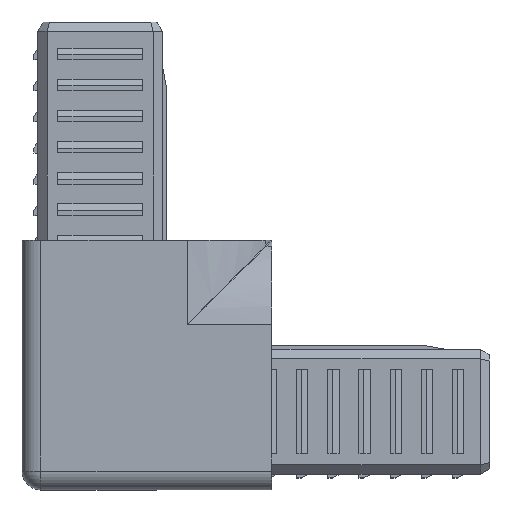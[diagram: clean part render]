
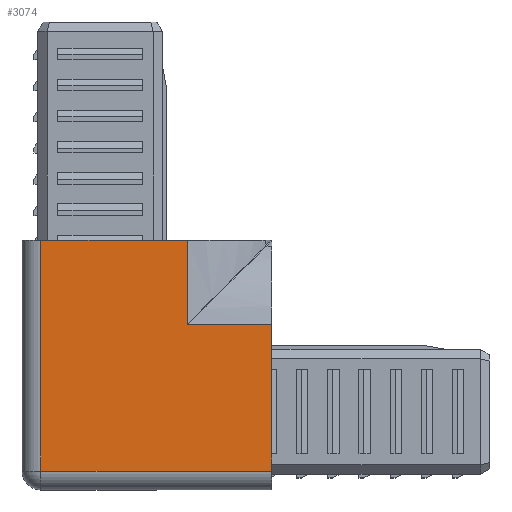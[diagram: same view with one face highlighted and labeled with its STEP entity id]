
A CAD part, top view. The second image highlights one B-rep face of the part: STEP entity #3074.
In plain terms, the highlighted planar face has unit normal (0, 0, 1).
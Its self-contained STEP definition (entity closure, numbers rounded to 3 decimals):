
#286 = VERTEX_POINT ( 'NONE', #8089 ) ;
#589 = CARTESIAN_POINT ( 'NONE',  ( 6.503, 6.505, 12.5 ) ) ;
#914 = VECTOR ( 'NONE', #10688, 1000. ) ;
#1063 = VECTOR ( 'NONE', #1221, 1000. ) ;
#1125 = VERTEX_POINT ( 'NONE', #5749 ) ;
#1214 = LINE ( 'NONE', #7887, #7384 ) ;
#1221 = DIRECTION ( 'NONE',  ( 0., -1., 0. ) ) ;
#1398 = CARTESIAN_POINT ( 'NONE',  ( 20., 6.5, 12.5 ) ) ;
#1528 = VECTOR ( 'NONE', #4251, 1000. ) ;
#1599 = LINE ( 'NONE', #5396, #8956 ) ;
#1718 = DIRECTION ( 'NONE',  ( 0., -1., 0. ) ) ;
#1804 = CARTESIAN_POINT ( 'NONE',  ( -17., 20., 12.5 ) ) ;
#2054 = DIRECTION ( 'NONE',  ( -1., 0., 0. ) ) ;
#2247 = LINE ( 'NONE', #6056, #8946 ) ;
#2312 = CARTESIAN_POINT ( 'NONE',  ( 6.502, 6.506, 12.5 ) ) ;
#2389 = ORIENTED_EDGE ( 'NONE', *, *, #10993, .T. ) ;
#2608 = ORIENTED_EDGE ( 'NONE', *, *, #8853, .F. ) ;
#2715 = DIRECTION ( 'NONE',  ( -1., 0., 0. ) ) ;
#2882 = CARTESIAN_POINT ( 'NONE',  ( 6.5, 0., 12.5 ) ) ;
#3074 = ADVANCED_FACE ( 'NONE', ( #10845 ), #9566, .F. ) ;
#3275 = AXIS2_PLACEMENT_3D ( 'NONE', #10392, #9577, #5291 ) ;
#3471 = LINE ( 'NONE', #3795, #914 ) ;
#3795 = CARTESIAN_POINT ( 'NONE',  ( -17., 0., 12.5 ) ) ;
#3961 = CARTESIAN_POINT ( 'NONE',  ( 6.504, 6.504, 12.5 ) ) ;
#3986 = VERTEX_POINT ( 'NONE', #5841 ) ;
#3995 = CARTESIAN_POINT ( 'NONE',  ( 6.5, 6.509, 12.5 ) ) ;
#4251 = DIRECTION ( 'NONE',  ( -1., 0., 0. ) ) ;
#4801 = CARTESIAN_POINT ( 'NONE',  ( 6.507, 6.501, 12.5 ) ) ;
#4853 = CARTESIAN_POINT ( 'NONE',  ( 6.515, 6.5, 12.5 ) ) ;
#5189 = ORIENTED_EDGE ( 'NONE', *, *, #8041, .T. ) ;
#5291 = DIRECTION ( 'NONE',  ( -1., 0., 0. ) ) ;
#5396 = CARTESIAN_POINT ( 'NONE',  ( -20., 20., 12.5 ) ) ;
#5638 = EDGE_CURVE ( 'NONE', #286, #6657, #7756, .T. ) ;
#5717 = CARTESIAN_POINT ( 'NONE',  ( 6.509, 6.501, 12.5 ) ) ;
#5749 = CARTESIAN_POINT ( 'NONE',  ( 6.515, 6.5, 12.5 ) ) ;
#5841 = CARTESIAN_POINT ( 'NONE',  ( 20., -17., 12.5 ) ) ;
#6056 = CARTESIAN_POINT ( 'NONE',  ( 20., -20., 12.5 ) ) ;
#6211 = EDGE_CURVE ( 'NONE', #286, #10833, #1599, .T. ) ;
#6383 = VERTEX_POINT ( 'NONE', #1398 ) ;
#6576 = EDGE_CURVE ( 'NONE', #6383, #3986, #2247, .T. ) ;
#6579 = CARTESIAN_POINT ( 'NONE',  ( 6.5, 6.511, 12.5 ) ) ;
#6657 = VERTEX_POINT ( 'NONE', #8576 ) ;
#6883 = ORIENTED_EDGE ( 'NONE', *, *, #6576, .F. ) ;
#7128 = VERTEX_POINT ( 'NONE', #9171 ) ;
#7384 = VECTOR ( 'NONE', #2715, 1000. ) ;
#7439 = CARTESIAN_POINT ( 'NONE',  ( 6.502, 6.507, 12.5 ) ) ;
#7579 = ORIENTED_EDGE ( 'NONE', *, *, #6211, .T. ) ;
#7756 = LINE ( 'NONE', #2882, #1063 ) ;
#7887 = CARTESIAN_POINT ( 'NONE',  ( 0., -17., 12.5 ) ) ;
#8041 = EDGE_CURVE ( 'NONE', #6383, #1125, #9553, .T. ) ;
#8089 = CARTESIAN_POINT ( 'NONE',  ( 6.5, 20., 12.5 ) ) ;
#8260 = CARTESIAN_POINT ( 'NONE',  ( 6.505, 6.502, 12.5 ) ) ;
#8307 = CARTESIAN_POINT ( 'NONE',  ( 6.501, 6.508, 12.5 ) ) ;
#8325 = ORIENTED_EDGE ( 'NONE', *, *, #5638, .F. ) ;
#8576 = CARTESIAN_POINT ( 'NONE',  ( 6.5, 6.515, 12.5 ) ) ;
#8765 = B_SPLINE_CURVE_WITH_KNOTS ( 'NONE', 3,
 ( #4853, #10865, #10829, #5717, #10793, #4801, #8260, #10035, #3961, #589, #2312, #7439, #8307, #3995, #6579, #9999, #9179, #9131, #9092 ),
 .UNSPECIFIED., .F., .F.,
 ( 4, 3, 3, 3, 3, 3, 4 ),
 ( 0., 0., 0., 0., 0., 0., 0. ),
 .UNSPECIFIED. ) ;
#8853 = EDGE_CURVE ( 'NONE', #3986, #7128, #1214, .T. ) ;
#8946 = VECTOR ( 'NONE', #1718, 1000. ) ;
#8956 = VECTOR ( 'NONE', #2054, 1000. ) ;
#9064 = EDGE_LOOP ( 'NONE', ( #2389, #2608, #6883, #5189, #9444, #8325, #7579 ) ) ;
#9092 = CARTESIAN_POINT ( 'NONE',  ( 6.5, 6.515, 12.5 ) ) ;
#9131 = CARTESIAN_POINT ( 'NONE',  ( 6.5, 6.514, 12.5 ) ) ;
#9171 = CARTESIAN_POINT ( 'NONE',  ( -17., -17., 12.5 ) ) ;
#9179 = CARTESIAN_POINT ( 'NONE',  ( 6.5, 6.514, 12.5 ) ) ;
#9400 = CARTESIAN_POINT ( 'NONE',  ( 0., 6.5, 12.5 ) ) ;
#9444 = ORIENTED_EDGE ( 'NONE', *, *, #9621, .T. ) ;
#9553 = LINE ( 'NONE', #9400, #1528 ) ;
#9566 = PLANE ( 'NONE',  #3275 ) ;
#9577 = DIRECTION ( 'NONE',  ( 0., 0., -1. ) ) ;
#9621 = EDGE_CURVE ( 'NONE', #1125, #6657, #8765, .T. ) ;
#9999 = CARTESIAN_POINT ( 'NONE',  ( 6.5, 6.513, 12.5 ) ) ;
#10035 = CARTESIAN_POINT ( 'NONE',  ( 6.504, 6.503, 12.5 ) ) ;
#10392 = CARTESIAN_POINT ( 'NONE',  ( 0., 0., 12.5 ) ) ;
#10688 = DIRECTION ( 'NONE',  ( 0., -1., 0. ) ) ;
#10793 = CARTESIAN_POINT ( 'NONE',  ( 6.508, 6.501, 12.5 ) ) ;
#10829 = CARTESIAN_POINT ( 'NONE',  ( 6.511, 6.5, 12.5 ) ) ;
#10833 = VERTEX_POINT ( 'NONE', #1804 ) ;
#10845 = FACE_OUTER_BOUND ( 'NONE', #9064, .T. ) ;
#10865 = CARTESIAN_POINT ( 'NONE',  ( 6.513, 6.5, 12.5 ) ) ;
#10993 = EDGE_CURVE ( 'NONE', #10833, #7128, #3471, .T. ) ;
